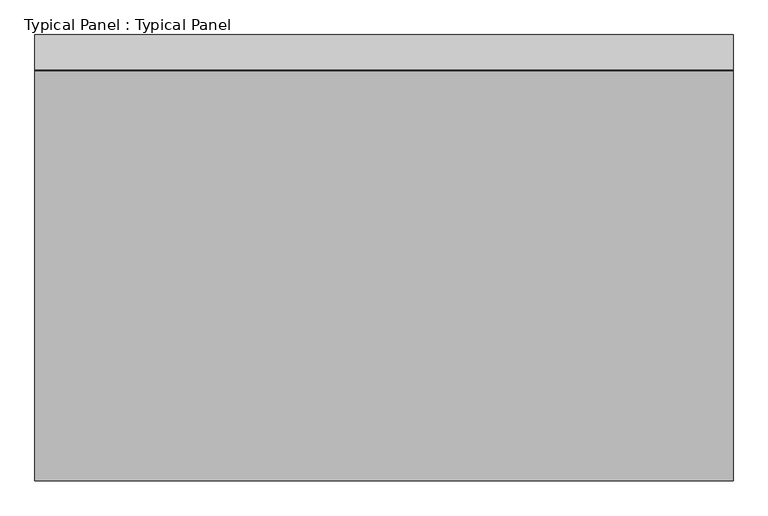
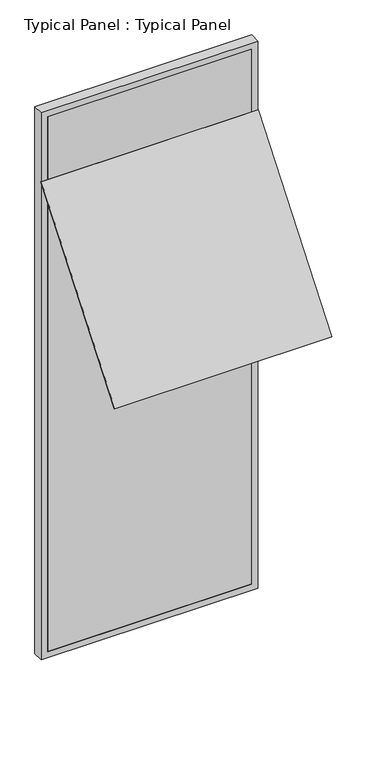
"""IFC4 building model written with IfcOpenShell, lengths in millimetres: plate geometry, Typical Panel : Typical Panel."""

from ifc_helpers import new_model, si_unit, frame, origin, place, context, project, spatial, polyline, outline, extrude, source, transform, mapped, element, save


def typical_panel_typical_panel_b5d764b4(model_context):
    return source(origin(), model_context, "Body", "SweptSolid", [
        extrude(outline(polyline([(0.0, -9.9999999), (0.0, 0.0), (1500.00002, 0.0), (1500.00002, -9.9999999), (0.0, -9.9999999)])), frame((750.00001, -885.3959097, 2373.1446223), z_axis=(0.0, 0.6156614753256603, 0.7880107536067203), x_axis=(-1.0, 0.0, 0.0)), (0.0, 0.0, 1.0), 1430.0),
        extrude(outline(polyline([(0.0, -750.00001), (0.0, 750.00001), (4000.0, 750.00001), (4000.0, -750.00001), (0.0, -750.00001)]), holes=[polyline([(45.0, 705.00001), (45.0, -705.00001), (3955.0, -705.00001), (3955.0, 705.00001), (45.0, 705.00001)])]), frame((0.0, -1.5797986, 0.0), z_axis=(0.0, 1.0, 0.0), x_axis=(0.0, 0.0, 1.0)), (0.0, 0.0, 1.0), 75.0),
        extrude(outline(polyline([(705.00001, -1.5797986), (-705.00001, -1.5797986), (-705.00001, 13.4202014), (705.00001, 13.4202014), (705.00001, -1.5797986)])), frame((0.0, 0.0, 45.0), z_axis=(0.0, 0.0, 1.0), x_axis=(1.0, 0.0, 0.0)), (0.0, 0.0, 1.0), 3910.0),
    ])


if __name__ == "__main__":
    model = new_model("IFC4")
    model_context = context("Model", 3, world=origin())
    ifc_project = project(units=[si_unit("LENGTHUNIT", "METRE", prefix="MILLI")], contexts=[model_context])
    site = spatial("IfcSite", under=ifc_project)
    building = spatial("IfcBuilding", under=site)
    placement = place(None, origin())
    typical_panel_typical_panel_shape = typical_panel_typical_panel_b5d764b4(model_context)
    element("IfcPlate", 1, ObjectType="Typical Panel : Typical Panel", at=placement, inside=building, context=model_context, shape_type="MappedRepresentation", body=[
        mapped(typical_panel_typical_panel_shape, transform((0.0, 0.0, 0.0), x_axis=(1.0, 0.0, 0.0), y_axis=(0.0, 1.0, 0.0), z_axis=(0.0, 0.0, 1.0))),
    ])
    save(model, "model.ifc")
